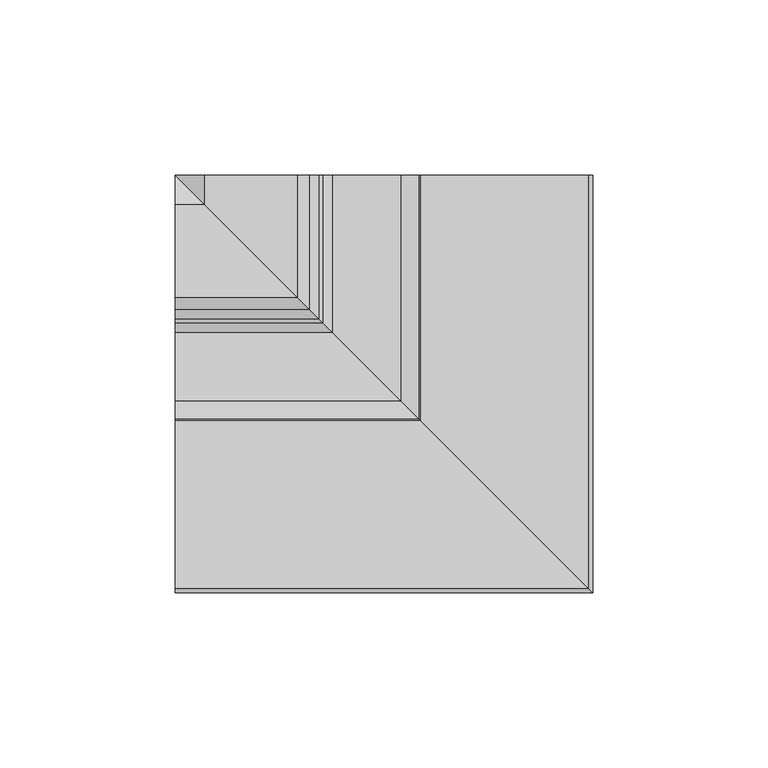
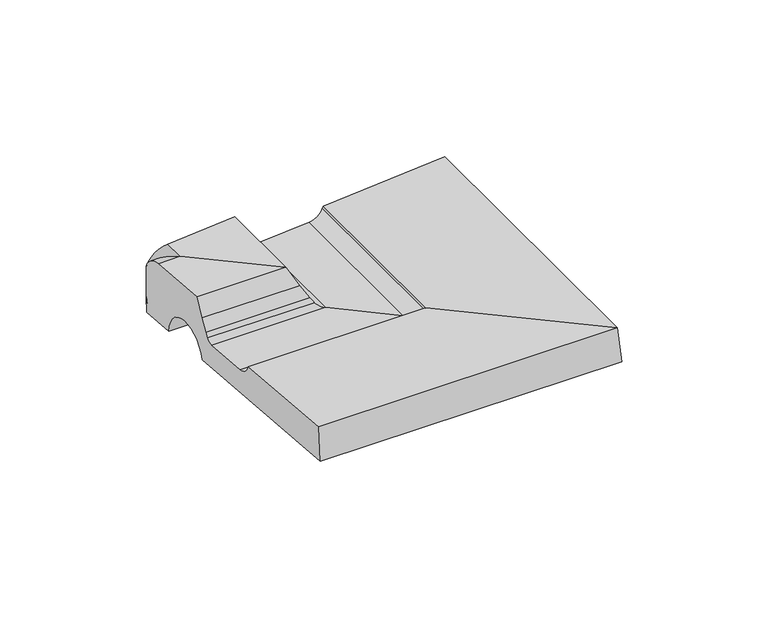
"""IFC4 building model written with IfcOpenShell, lengths in millimetres: proxy geometry, ROSA GRES_089 : Pieza 089_Aqua_Plomo_Anti-Slip."""

from ifc_helpers import new_model, si_unit, frame, origin, place, context, project, spatial, polyline, circle_curve, ellipse_curve, source, transform, mapped, element, save
from ifc_brep_helpers import plane_surface, cylinder_surface, revolved_surface, advanced_brep


def generic_models_78dfe14b(model_context):
    return source(origin(), model_context, "Body", "AdvancedBrep", [
        advanced_brep(
        [(0.4959854, -0.4959854, 174.3946403), (0.4959854, 0.0, 174.3946403), (15.4742511, 0.0, 175.6138015), (15.4742511, -15.4742511, 175.6138015), (38.2820268, 0.0, 177.4702483), (38.2820268, -38.2820268, 177.4702483), (119.1037338, 0.0, 184.0487594), (119.1037338, -119.1037338, 184.0487594), (117.9849268, 0.0, 197.7941027), (117.9849268, -117.9849268, 197.7941027), (69.9836117, 0.0, 193.8870189), (69.9836117, -69.9836117, 193.8870189), (69.5852402, 0.0, 193.1051707), (69.5852402, -69.5852402, 193.1051707), (64.4101321, 0.0, 189.205447), (64.4101321, -64.4101321, 189.205447), (44.9243788, 0.0, 187.6193973), (44.9243788, -44.9243788, 187.6193973), (42.1786827, 0.0, 188.9557911), (42.1786827, -42.1786827, 188.9557911), (41.0138307, 0.0, 190.7196924), (41.0138307, -41.0138307, 190.7196924), (38.3959439, 0.0, 195.0159662), (38.3959439, -38.3959439, 195.0159662), (34.9297931, 0.0, 201.7687131), (34.9297931, -34.9297931, 201.7687131), (8.4761969, 0.0, 199.6155199), (8.4761969, -8.4761969, 199.6155199), (0.0, 0.0, 193.3556365), (0.0, 0.0, 180.4881752), (0.0, -15.4742511, 175.6138015), (0.0, -0.4959854, 174.3946403), (0.0, -38.2820268, 177.4702483), (0.0, -119.1037338, 184.0487594), (0.0, -117.9849268, 197.7941027), (0.0, -69.9836117, 193.8870189), (0.0, -69.5852402, 193.1051707), (0.0, -64.4101321, 189.205447), (0.0, -44.9243788, 187.6193973), (0.0, -42.1786827, 188.9557911), (0.0, -41.0138307, 190.7196924), (0.0, -38.3959439, 195.0159662), (0.0, -34.9297931, 201.7687131), (0.0, -8.4761969, 199.6155199)],
        [
            (0, 1),
            (1, 2),
            (2, 3),
            (3, 0),
            (2, 4, circle_curve(frame((27.0041663, 0.0, 174.9936892), z_axis=(0.0, 1.0, 0.0), x_axis=(-1.0, 0.0, 0.0)), 11.5465789)),
            (4, 5),
            (5, 3, ellipse_curve(frame((27.0041663, -27.0041663, 174.9936892), z_axis=(-0.7071067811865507, -0.7071067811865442, 0.0), x_axis=(0.7071067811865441, -0.7071067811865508, 0.0)), 16.3293284, 11.5465789)),
            (4, 6),
            (6, 7),
            (7, 5),
            (6, 8),
            (8, 9),
            (9, 7),
            (8, 10),
            (10, 11),
            (11, 9),
            (10, 12),
            (12, 13),
            (13, 11),
            (12, 14, circle_curve(frame((63.9188624, 0.0, 195.2410459), z_axis=(0.0, 1.0, 0.0), x_axis=(-1.0, 0.0, 0.0)), 6.0555595)),
            (14, 15),
            (15, 13, ellipse_curve(frame((63.9188624, -63.9188624, 195.2410459), z_axis=(-0.7071067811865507, -0.7071067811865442, 0.0), x_axis=(0.7071067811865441, -0.7071067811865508, 0.0)), 8.5638543, 6.0555595)),
            (14, 16),
            (16, 17),
            (17, 15),
            (16, 18, circle_curve(frame((44.6810926, 0.0, 190.6083422), z_axis=(0.0, 1.0, 0.0), x_axis=(-1.0, 0.0, 0.0)), 2.9988298)),
            (18, 19),
            (19, 17, ellipse_curve(frame((44.6810926, -44.6810926, 190.6083422), z_axis=(-0.7071067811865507, -0.7071067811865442, 0.0), x_axis=(0.7071067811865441, -0.7071067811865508, 0.0)), 4.2409858, 2.9988298)),
            (18, 20),
            (20, 21),
            (21, 19),
            (20, 22),
            (22, 23),
            (23, 21),
            (22, 24),
            (24, 25),
            (25, 23),
            (24, 26),
            (26, 27),
            (27, 25),
            (26, 28, circle_curve(frame((9.287465, 0.0, 189.648482), z_axis=(0.0, -1.0, 0.0), x_axis=(-1.0, 0.0, 0.0)), 10.0)),
            (28, 27, ellipse_curve(frame((9.287465, -9.287465, 189.648482), z_axis=(0.7071067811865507, 0.7071067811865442, 0.0), x_axis=(-0.7071067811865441, 0.7071067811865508, 0.0)), 14.1421356, 10.0)),
            (0, 29),
            (29, 1),
            (3, 30),
            (30, 31),
            (31, 0),
            (5, 32),
            (32, 30, circle_curve(frame((0.0, -27.0041663, 174.9936892), z_axis=(-1.0, 0.0, 0.0), x_axis=(0.0, 1.0, 0.0)), 11.5465789)),
            (7, 33),
            (33, 32),
            (9, 34),
            (34, 33),
            (11, 35),
            (35, 34),
            (13, 36),
            (36, 35),
            (15, 37),
            (37, 36, circle_curve(frame((0.0, -63.9188624, 195.2410459), z_axis=(-1.0, 0.0, 0.0), x_axis=(0.0, 1.0, 0.0)), 6.0555595)),
            (17, 38),
            (38, 37),
            (19, 39),
            (39, 38, circle_curve(frame((0.0, -44.6810926, 190.6083422), z_axis=(-1.0, 0.0, 0.0), x_axis=(0.0, 1.0, 0.0)), 2.9988298)),
            (21, 40),
            (40, 39),
            (23, 41),
            (41, 40),
            (25, 42),
            (42, 41),
            (27, 43),
            (43, 42),
            (28, 43, circle_curve(frame((0.0, -9.287465, 189.648482), z_axis=(1.0, 0.0, 0.0), x_axis=(0.0, 1.0, 0.0)), 10.0)),
            (31, 29),
            (28, 29),
        ],
        [
            plane_surface(frame((0.4959854, 5.0, 174.3946403), z_axis=(0.08112705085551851, 0.0, -0.9967037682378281), x_axis=(0.0, -1.0, 0.0))),
            revolved_surface(polyline([(15.457587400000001, -38.55074514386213, 174.9936892), (15.457587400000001, 0.0, 174.9936892)]), (27.0041663, 5.0, 174.9936892), (0.0, -1.0, 0.0)),
            plane_surface(frame((38.2820268, 5.0, 177.4702483), z_axis=(0.08112705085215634, 0.0, -0.9967037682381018), x_axis=(0.0, -1.0, 0.0))),
            plane_surface(frame((119.1037338, 5.0, 184.0487594), z_axis=(0.9967037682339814, 0.0, 0.08112705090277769), x_axis=(0.0, -1.0, 0.0))),
            plane_surface(frame((117.9849268, 5.0, 197.7941027), z_axis=(-0.08112705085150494, 0.0, 0.9967037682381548), x_axis=(0.0, -1.0, 0.0))),
            plane_surface(frame((69.9836117, 5.0, 193.8870189), z_axis=(-0.8910065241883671, 0.0, 0.4539904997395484), x_axis=(0.0, -1.0, 0.0))),
            revolved_surface(polyline([(57.8633029, -69.97442184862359, 195.2410459), (57.8633029, 0.0, 195.2410459)]), (63.9188624, 5.0, 195.2410459), (0.0, -1.0, 0.0)),
            plane_surface(frame((64.4101321, 5.0, 189.205447), z_axis=(-0.08112705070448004, 0.0, 0.996703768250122), x_axis=(0.0, -1.0, 0.0))),
            revolved_surface(polyline([(41.6822628, -47.67992241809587, 190.6083422), (41.6822628, 0.0, 190.6083422)]), (44.6810926, 5.0, 190.6083422), (0.0, -1.0, 0.0)),
            plane_surface(frame((42.1786827, 5.0, 188.9557911), z_axis=(0.8344621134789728, 0.0, 0.5510653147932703), x_axis=(0.0, -1.0, 0.0))),
            plane_surface(frame((41.0138307, 5.0, 190.7196924), z_axis=(0.8539544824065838, 0.0, 0.5203477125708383), x_axis=(0.0, -1.0, 0.0))),
            plane_surface(frame((38.3959439, 5.0, 195.0159662), z_axis=(0.8896460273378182, 0.0, 0.45665079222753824), x_axis=(0.0, -1.0, 0.0))),
            plane_surface(frame((34.9297931, 5.0, 201.7687131), z_axis=(-0.08112680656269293, 0.0, 0.9967037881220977), x_axis=(0.0, -1.0, 0.0))),
            cylinder_surface(frame((9.287465, 5.0, 189.648482), z_axis=(0.0, 1.0, 0.0), x_axis=(-1.0, 0.0, 0.0)), 10.0),
            plane_surface(frame((-0.6795727, 5.0, 188.8372115), z_axis=(-0.9967037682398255, 0.0, -0.08112705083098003), x_axis=(0.0, -1.0, 0.0))),
            plane_surface(frame((0.4959854, -0.4959854, 174.3946403), z_axis=(0.0, -0.08112705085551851, -0.9967037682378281), x_axis=(-1.0, 0.0, 0.0))),
            revolved_surface(polyline([(0.0, -15.457587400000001, 174.9936892), (38.550745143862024, -15.457587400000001, 174.9936892)]), (0.0, -27.0041663, 174.9936892), (-1.0, 0.0, 0.0)),
            plane_surface(frame((38.2820268, -38.2820268, 177.4702483), z_axis=(0.0, -0.08112705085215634, -0.9967037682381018), x_axis=(-1.0, 0.0, 0.0))),
            plane_surface(frame((119.1037338, -119.1037338, 184.0487594), z_axis=(0.0, -0.9967037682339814, 0.08112705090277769), x_axis=(-1.0, 0.0, 0.0))),
            plane_surface(frame((117.9849268, -117.9849268, 197.7941027), z_axis=(0.0, 0.08112705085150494, 0.9967037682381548), x_axis=(-1.0, 0.0, 0.0))),
            plane_surface(frame((69.9836117, -69.9836117, 193.8870189), z_axis=(0.0, 0.8910065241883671, 0.4539904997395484), x_axis=(-1.0, 0.0, 0.0))),
            revolved_surface(polyline([(0.0, -57.8633029, 195.2410459), (69.97442184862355, -57.8633029, 195.2410459)]), (0.0, -63.9188624, 195.2410459), (-1.0, 0.0, 0.0)),
            plane_surface(frame((64.4101321, -64.4101321, 189.205447), z_axis=(0.0, 0.08112705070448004, 0.996703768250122), x_axis=(-1.0, 0.0, 0.0))),
            revolved_surface(polyline([(0.0, -41.6822628, 190.6083422), (47.67992241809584, -41.6822628, 190.6083422)]), (0.0, -44.6810926, 190.6083422), (-1.0, 0.0, 0.0)),
            plane_surface(frame((42.1786827, -42.1786827, 188.9557911), z_axis=(0.0, -0.8344621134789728, 0.5510653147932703), x_axis=(-1.0, 0.0, 0.0))),
            plane_surface(frame((41.0138307, -41.0138307, 190.7196924), z_axis=(0.0, -0.8539544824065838, 0.5203477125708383), x_axis=(-1.0, 0.0, 0.0))),
            plane_surface(frame((38.3959439, -38.3959439, 195.0159662), z_axis=(0.0, -0.8896460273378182, 0.45665079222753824), x_axis=(-1.0, 0.0, 0.0))),
            plane_surface(frame((34.9297931, -34.9297931, 201.7687131), z_axis=(0.0, 0.08112680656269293, 0.9967037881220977), x_axis=(-1.0, 0.0, 0.0))),
            cylinder_surface(frame((0.0, -9.287465, 189.648482), z_axis=(1.0, 0.0, 0.0), x_axis=(0.0, 1.0, 0.0)), 10.0),
            plane_surface(frame((-0.6795727, 0.6795727, 188.8372115), z_axis=(0.0, 0.9967037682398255, -0.08112705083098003), x_axis=(-1.0, 0.0, 0.0))),
            plane_surface(frame((0.0, 0.0, 206.3376696), z_axis=(-1.0, 0.0, 0.0), x_axis=(0.0, 0.0, -1.0))),
            plane_surface(frame((125.0, 0.0, 206.3376696), z_axis=(0.0, 1.0, 0.0), x_axis=(0.0, 0.0, -1.0))),
        ],
        [
            (0, [[1, 2, 3, 4]]),
            (1, [[-3, 5, 6, 7]]),
            (2, [[-6, 8, 9, 10]]),
            (3, [[-9, 11, 12, 13]]),
            (4, [[-12, 14, 15, 16]]),
            (5, [[-15, 17, 18, 19]]),
            (6, [[-18, 20, 21, 22]]),
            (7, [[-21, 23, 24, 25]]),
            (8, [[-24, 26, 27, 28]]),
            (9, [[-27, 29, 30, 31]]),
            (10, [[-30, 32, 33, 34]]),
            (11, [[-33, 35, 36, 37]]),
            (12, [[-36, 38, 39, 40]]),
            (13, [[41, 42, -39]]),
            (14, [[43, 44, -1]]),
            (15, [[45, 46, 47, -4]]),
            (16, [[48, 49, -45, -7]]),
            (17, [[50, 51, -48, -10]]),
            (18, [[52, 53, -50, -13]]),
            (19, [[54, 55, -52, -16]]),
            (20, [[56, 57, -54, -19]]),
            (21, [[58, 59, -56, -22]]),
            (22, [[60, 61, -58, -25]]),
            (23, [[62, 63, -60, -28]]),
            (24, [[64, 65, -62, -31]]),
            (25, [[66, 67, -64, -34]]),
            (26, [[68, 69, -66, -37]]),
            (27, [[70, 71, -68, -40]]),
            (28, [[72, -70, -42]]),
            (29, [[-47, 73, -43]]),
            (30, [[-73, -46, -49, -51, -53, -55, -57, -59, -61, -63, -65, -67, -69, -71, -72, 74]]),
            (31, [[-41, -38, -35, -32, -29, -26, -23, -20, -17, -14, -11, -8, -5, -2, -44, -74]]),
        ],
    ),
    ])


if __name__ == "__main__":
    model = new_model("IFC4")
    model_context = context("Model", 3, world=origin())
    ifc_project = project(units=[si_unit("LENGTHUNIT", "METRE", prefix="MILLI")], contexts=[model_context])
    site = spatial("IfcSite", under=ifc_project)
    building = spatial("IfcBuilding", under=site)
    placement = place(None, origin())
    generic_models_shape = generic_models_78dfe14b(model_context)
    element("IfcBuildingElementProxy", 1, Name="ROSA GRES_089 : Pieza 089_Aqua_Plomo_Anti-Slip", ObjectType="ROSA GRES_089 : Pieza 089_Aqua_Plomo_Anti-Slip", at=placement, inside=building, context=model_context, shape_type="MappedRepresentation", body=[
        mapped(generic_models_shape, transform((0.0, 0.0, 0.0), x_axis=(1.0, 0.0, 0.0), y_axis=(0.0, 1.0, 0.0), z_axis=(0.0, 0.0, 1.0))),
    ])
    save(model, "model.ifc")
